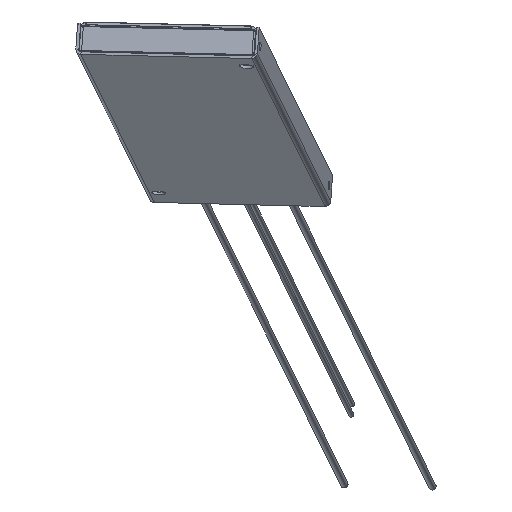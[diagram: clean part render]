
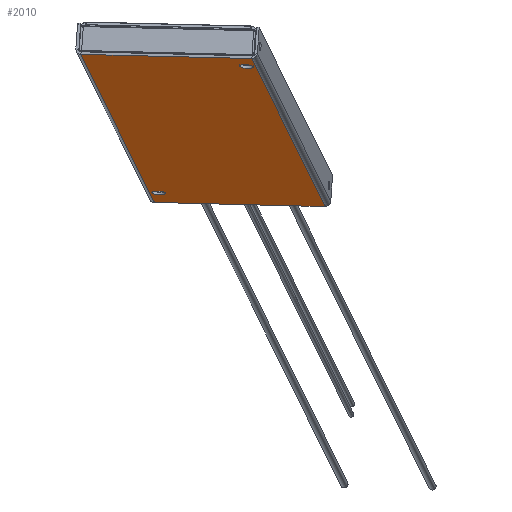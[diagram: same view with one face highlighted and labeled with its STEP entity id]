
A CAD part, left-side view. The second image highlights one B-rep face of the part: STEP entity #2010.
In plain terms, the highlighted planar face has unit normal (-0.27, 0.064, -0.961).
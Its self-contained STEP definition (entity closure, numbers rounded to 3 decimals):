
#112=LINE($,#3141,#283);
#114=LINE($,#3144,#285);
#130=LINE($,#3178,#301);
#131=LINE($,#3180,#302);
#283=VECTOR($,#2572,198.);
#285=VECTOR($,#2576,64.);
#301=VECTOR($,#2610,198.);
#302=VECTOR($,#2613,64.);
#409=PLANE($,#2185);
#477=FACE_BOUND($,#695,.T.);
#478=FACE_BOUND($,#696,.T.);
#479=FACE_BOUND($,#697,.T.);
#695=EDGE_LOOP($,(#1550));
#696=EDGE_LOOP($,(#1551));
#697=EDGE_LOOP($,(#1552,#1553,#1554,#1555));
#804=CIRCLE($,#2157,2.5);
#806=CIRCLE($,#2160,2.5);
#911=VERTEX_POINT($,#3030);
#936=VERTEX_POINT($,#3094);
#938=VERTEX_POINT($,#3099);
#948=VERTEX_POINT($,#3126);
#949=VERTEX_POINT($,#3130);
#958=VERTEX_POINT($,#3168);
#1128=EDGE_CURVE($,#936,#936,#804,.T.);
#1130=EDGE_CURVE($,#938,#938,#806,.T.);
#1150=EDGE_CURVE($,#948,#949,#112,.T.);
#1152=EDGE_CURVE($,#911,#949,#114,.T.);
#1171=EDGE_CURVE($,#911,#958,#130,.T.);
#1172=EDGE_CURVE($,#948,#958,#131,.T.);
#1550=ORIENTED_EDGE($,*,*,#1128,.T.);
#1551=ORIENTED_EDGE($,*,*,#1130,.T.);
#1552=ORIENTED_EDGE($,*,*,#1150,.T.);
#1553=ORIENTED_EDGE($,*,*,#1152,.F.);
#1554=ORIENTED_EDGE($,*,*,#1171,.T.);
#1555=ORIENTED_EDGE($,*,*,#1172,.F.);
#2010=ADVANCED_FACE($,(#477,#478,#479),#409,.T.);
#2157=AXIS2_PLACEMENT_3D($,#3095,#2523,#2524);
#2160=AXIS2_PLACEMENT_3D($,#3100,#2529,#2530);
#2185=AXIS2_PLACEMENT_3D($,#3181,#2614,#2615);
#2523=DIRECTION('center_axis',(0.27,-0.064,0.961));
#2524=DIRECTION('ref_axis',(-0.951,0.137,0.277));
#2529=DIRECTION('center_axis',(0.27,-0.064,0.961));
#2530=DIRECTION('ref_axis',(-0.951,0.137,0.277));
#2572=DIRECTION($,(-0.951,0.137,0.277));
#2576=DIRECTION($,(-0.149,-0.988,-0.024));
#2610=DIRECTION($,(0.951,-0.137,-0.277));
#2613=DIRECTION($,(0.149,0.988,0.024));
#2614=DIRECTION('center_axis',(-0.27,0.064,-0.961));
#2615=DIRECTION('ref_axis',(-0.951,0.137,0.277));
#3030=CARTESIAN_POINT('',(-162.187,16.908,-27.831));
#3094=CARTESIAN_POINT('',(10.864,-11.578,-78.431));
#3095=CARTESIAN_POINT('Origin',(13.242,-11.921,-79.123));
#3099=CARTESIAN_POINT('',(-163.146,-44.06,-31.63));
#3100=CARTESIAN_POINT('Origin',(-160.768,-44.403,-32.322));
#3126=CARTESIAN_POINT('',(16.563,-73.506,-84.166));
#3130=CARTESIAN_POINT('',(-171.753,-46.354,-29.361));
#3141=CARTESIAN_POINT($,(-124.674,-53.142,-43.062));
#3144=CARTESIAN_POINT($,(-161.888,18.885,-27.784));
#3168=CARTESIAN_POINT('',(26.129,-10.244,-82.637));
#3178=CARTESIAN_POINT($,(-20.95,-3.456,-68.936));
#3180=CARTESIAN_POINT($,(16.264,-75.483,-84.214));
#3181=CARTESIAN_POINT('Origin',(-72.812,-28.299,-55.999));
